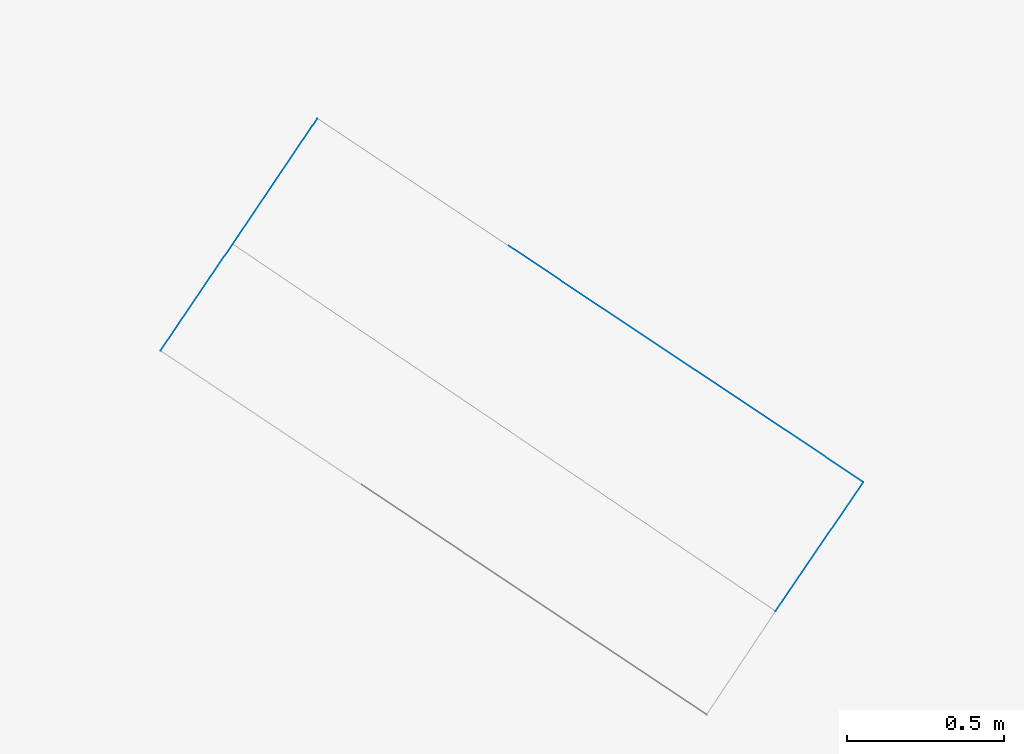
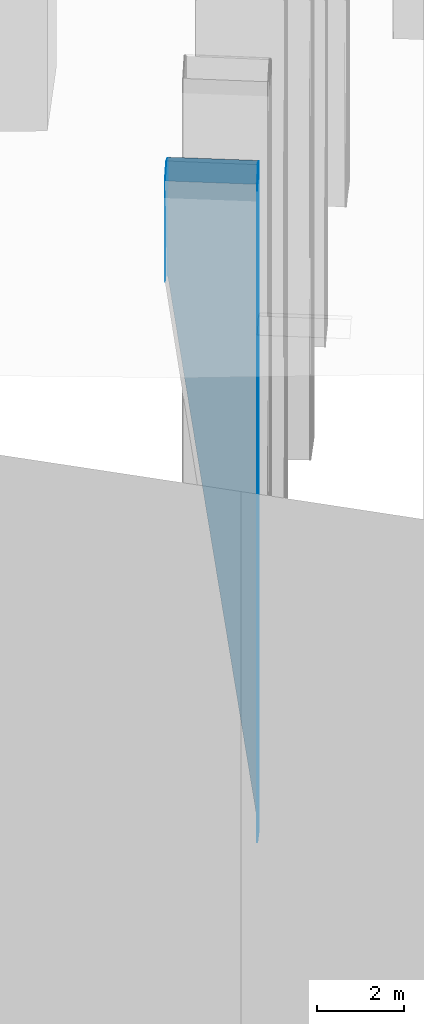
# Not in any storey, part 5 of 136: 4 walls.
"""IFC4 building model written with IfcOpenShell, lengths in metres."""

from ifc_helpers import new_model, entity, si_unit, converted_unit, origin, place, context, subcontext, project, spatial, face_set, surface_model, element, save


model = new_model("IFC4")

# Units and contexts
model_context = context("Model", 3, precision=1e-05, world=origin())
body_context = subcontext(model_context, "Body", "Model", "MODEL_VIEW")
ifc_project = project(units=[converted_unit("PLANEANGLEUNIT", "DEGREE", entity("IfcRatioMeasure", 0.0174532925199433), si_unit("PLANEANGLEUNIT", "RADIAN"), dimensions=[0, 0, 0, 0, 0, 0, 0]), si_unit("AREAUNIT", "SQUARE_METRE"), si_unit("LENGTHUNIT", "METRE")], contexts=[model_context])

# Site, building
site_placement = place(None, origin())
site = spatial("IfcSite", under=ifc_project, at=site_placement, Name="_site")
building_placement = place(site_placement, origin())
building = spatial("IfcBuilding", under=site, at=building_placement, Name="_building")

# Walls
wall_1_placement = place(building_placement, origin())
element("IfcWall", 1, at=wall_1_placement, inside=building, Name="Wall", PredefinedType="NOTDEFINED", context=body_context, shape_type="SurfaceModel", body=[
    surface_model("IfcFaceBasedSurfaceModel", [(6.34, 23.69, 54.41), (6.57, 24.03, 54.68), (6.34, 23.69, 51.566)], [face_set([[[0, 1, 2]]])]),
])
wall_2_placement = place(building_placement, origin())
element("IfcWall", 2, at=wall_2_placement, inside=building, Name="Wall", PredefinedType="NOTDEFINED", context=body_context, shape_type="SurfaceModel", body=[
    surface_model("IfcFaceBasedSurfaceModel", [(8.58, 23.271, 54.45), (8.3, 22.86, 54.68), (8.3, 22.86, 35.702), (8.58, 23.271, 35.703)], [face_set([[[0, 1, 2, 3]]])]),
])
wall_3_placement = place(building_placement, origin())
element("IfcWall", 3, at=wall_3_placement, inside=building, Name="Wall", PredefinedType="NOTDEFINED", context=body_context, shape_type="SurfaceModel", body=[
    surface_model("IfcFaceBasedSurfaceModel", [(6.57, 24.03, 54.68), (6.84, 24.43, 54.45), (6.84, 24.43, 51.121)], [face_set([[[0, 1, 2]]])]),
])
wall_4_placement = place(building_placement, origin())
element("IfcWall", 4, at=wall_4_placement, inside=building, Name="Wall", PredefinedType="NOTDEFINED", context=body_context, shape_type="SurfaceModel", body=[
    surface_model("IfcFaceBasedSurfaceModel", [(6.84, 24.43, 54.45), (8.58, 23.271, 54.45), (8.58, 23.271, 35.703), (6.84, 24.43, 51.121)], [face_set([[[0, 1, 2, 3]]])]),
])

save(model, "model.ifc")
